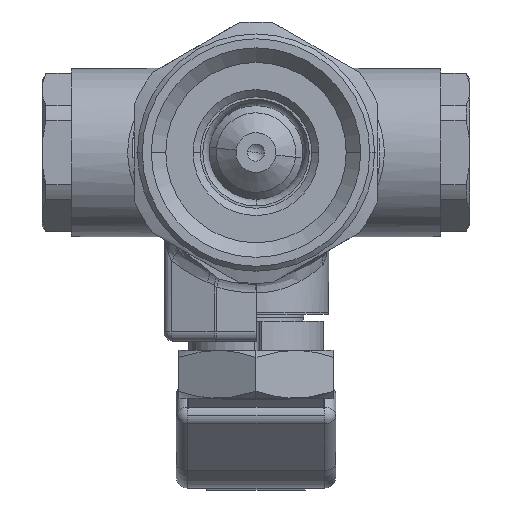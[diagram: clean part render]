
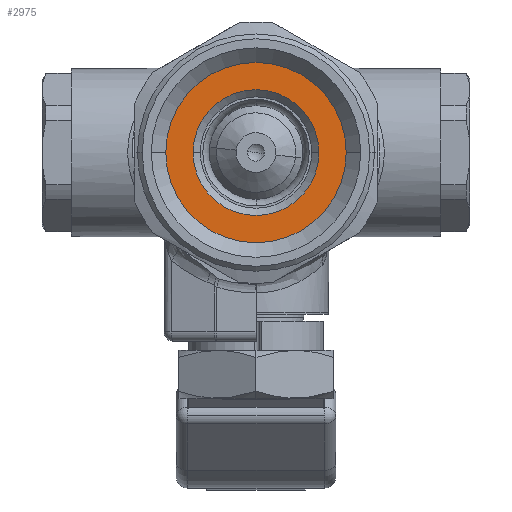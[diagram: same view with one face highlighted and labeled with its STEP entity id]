
A CAD part, left-side view. The second image highlights one B-rep face of the part: STEP entity #2975.
In plain terms, the highlighted planar face has unit normal (-1, 0, 0).
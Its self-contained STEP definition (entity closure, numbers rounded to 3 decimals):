
#882 = ORIENTED_EDGE ( 'NONE', *, *, #1135, .T. ) ;
#966 = ORIENTED_EDGE ( 'NONE', *, *, #46266, .F. ) ;
#1135 = EDGE_CURVE ( 'NONE', #40417, #17742, #2949, .T. ) ;
#2166 = DIRECTION ( 'NONE',  ( -1., 0., 0. ) ) ;
#2949 = CIRCLE ( 'NONE', #16136, 9.316 ) ;
#2975 = ADVANCED_FACE ( 'NONE', ( #11322, #18025 ), #17155, .F. ) ;
#3798 = ORIENTED_EDGE ( 'NONE', *, *, #27670, .F. ) ;
#4587 = DIRECTION ( 'NONE',  ( -1., 0., 0. ) ) ;
#7510 = CIRCLE ( 'NONE', #20085, 6.5 ) ;
#7627 = CARTESIAN_POINT ( 'NONE',  ( -8.9, 0., 6.5 ) ) ;
#8858 = EDGE_LOOP ( 'NONE', ( #12763, #882 ) ) ;
#9672 = CARTESIAN_POINT ( 'NONE',  ( -8.9, 0., 9.316 ) ) ;
#10004 = DIRECTION ( 'NONE',  ( 0., 0., 1. ) ) ;
#11322 = FACE_BOUND ( 'NONE', #42025, .T. ) ;
#12763 = ORIENTED_EDGE ( 'NONE', *, *, #24608, .T. ) ;
#13014 = CARTESIAN_POINT ( 'NONE',  ( -8.9, 0., 0. ) ) ;
#15142 = CARTESIAN_POINT ( 'NONE',  ( -8.9, 0., -9.316 ) ) ;
#15891 = AXIS2_PLACEMENT_3D ( 'NONE', #32590, #4587, #36633 ) ;
#16136 = AXIS2_PLACEMENT_3D ( 'NONE', #38874, #45731, #10004 ) ;
#16506 = CARTESIAN_POINT ( 'NONE',  ( -8.9, 0., 0. ) ) ;
#17155 = PLANE ( 'NONE',  #32183 ) ;
#17742 = VERTEX_POINT ( 'NONE', #9672 ) ;
#18025 = FACE_OUTER_BOUND ( 'NONE', #8858, .T. ) ;
#20085 = AXIS2_PLACEMENT_3D ( 'NONE', #16506, #2166, #27337 ) ;
#21735 = VERTEX_POINT ( 'NONE', #7627 ) ;
#24608 = EDGE_CURVE ( 'NONE', #17742, #40417, #41337, .T. ) ;
#25479 = DIRECTION ( 'NONE',  ( 1., 0., 0. ) ) ;
#26136 = AXIS2_PLACEMENT_3D ( 'NONE', #13014, #41737, #37656 ) ;
#27337 = DIRECTION ( 'NONE',  ( 0., 0., 1. ) ) ;
#27670 = EDGE_CURVE ( 'NONE', #43028, #21735, #7510, .T. ) ;
#32183 = AXIS2_PLACEMENT_3D ( 'NONE', #45817, #25479, #32386 ) ;
#32386 = DIRECTION ( 'NONE',  ( 0., 0., -1. ) ) ;
#32590 = CARTESIAN_POINT ( 'NONE',  ( -8.9, 0., 0. ) ) ;
#36633 = DIRECTION ( 'NONE',  ( 0., 0., 1. ) ) ;
#37656 = DIRECTION ( 'NONE',  ( 0., 0., 1. ) ) ;
#38049 = CIRCLE ( 'NONE', #26136, 6.5 ) ;
#38874 = CARTESIAN_POINT ( 'NONE',  ( -8.9, 0., 0. ) ) ;
#40417 = VERTEX_POINT ( 'NONE', #15142 ) ;
#41337 = CIRCLE ( 'NONE', #15891, 9.316 ) ;
#41737 = DIRECTION ( 'NONE',  ( -1., 0., 0. ) ) ;
#42025 = EDGE_LOOP ( 'NONE', ( #966, #3798 ) ) ;
#42084 = CARTESIAN_POINT ( 'NONE',  ( -8.9, 0., -6.5 ) ) ;
#43028 = VERTEX_POINT ( 'NONE', #42084 ) ;
#45731 = DIRECTION ( 'NONE',  ( -1., 0., 0. ) ) ;
#45817 = CARTESIAN_POINT ( 'NONE',  ( -8.9, 9.316, 0. ) ) ;
#46266 = EDGE_CURVE ( 'NONE', #21735, #43028, #38049, .T. ) ;
